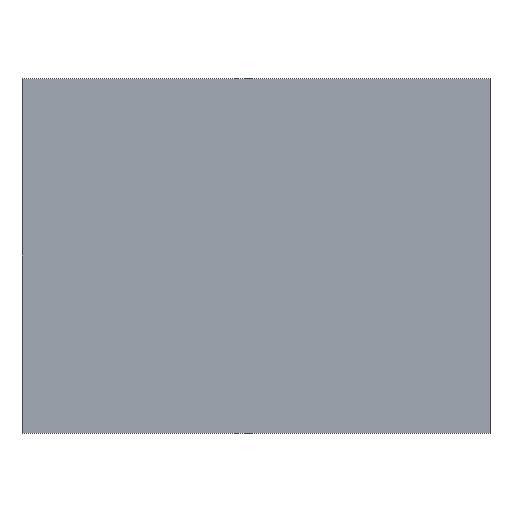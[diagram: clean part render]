
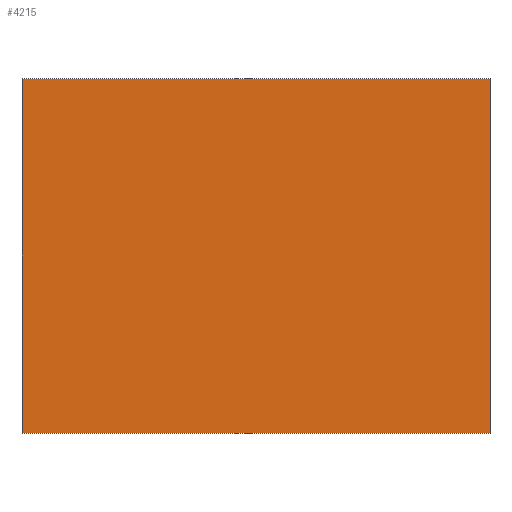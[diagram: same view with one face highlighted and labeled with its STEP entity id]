
A CAD part, front view. The second image highlights one B-rep face of the part: STEP entity #4215.
In plain terms, the highlighted planar face has unit normal (0, -1, 0).
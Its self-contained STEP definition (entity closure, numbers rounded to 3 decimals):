
#606 = ORIENTED_EDGE ( 'NONE', *, *, #3211, .F. ) ;
#2031 = VECTOR ( 'NONE', #14901, 1000. ) ;
#2086 = EDGE_LOOP ( 'NONE', ( #10309, #606, #14445, #8817 ) ) ;
#2139 = DIRECTION ( 'NONE',  ( 0., 0., -1. ) ) ;
#3211 = EDGE_CURVE ( 'NONE', #11175, #9135, #21584, .T. ) ;
#3220 = VECTOR ( 'NONE', #2139, 1000. ) ;
#3669 = EDGE_CURVE ( 'NONE', #9135, #13892, #11811, .T. ) ;
#4215 = ADVANCED_FACE ( 'NONE', ( #21738 ), #17772, .F. ) ;
#5685 = CARTESIAN_POINT ( 'NONE',  ( 61., -44.4, 23.5 ) ) ;
#5909 = CARTESIAN_POINT ( 'NONE',  ( 61., -44.4, 23.5 ) ) ;
#6081 = CARTESIAN_POINT ( 'NONE',  ( -1., -44.4, 23.5 ) ) ;
#6141 = VERTEX_POINT ( 'NONE', #5909 ) ;
#8817 = ORIENTED_EDGE ( 'NONE', *, *, #11502, .F. ) ;
#9078 = CARTESIAN_POINT ( 'NONE',  ( 61., -44.4, -23.5 ) ) ;
#9135 = VERTEX_POINT ( 'NONE', #20290 ) ;
#10309 = ORIENTED_EDGE ( 'NONE', *, *, #3669, .F. ) ;
#11175 = VERTEX_POINT ( 'NONE', #9078 ) ;
#11502 = EDGE_CURVE ( 'NONE', #13892, #6141, #20358, .T. ) ;
#11811 = LINE ( 'NONE', #6081, #2031 ) ;
#12708 = LINE ( 'NONE', #12833, #3220 ) ;
#12812 = EDGE_CURVE ( 'NONE', #6141, #11175, #12708, .T. ) ;
#12833 = CARTESIAN_POINT ( 'NONE',  ( 61., -44.4, 23.5 ) ) ;
#12846 = VECTOR ( 'NONE', #18174, 1000. ) ;
#13801 = AXIS2_PLACEMENT_3D ( 'NONE', #17695, #19626, #21297 ) ;
#13892 = VERTEX_POINT ( 'NONE', #18504 ) ;
#14445 = ORIENTED_EDGE ( 'NONE', *, *, #12812, .F. ) ;
#14901 = DIRECTION ( 'NONE',  ( 0., 0., 1. ) ) ;
#15857 = CARTESIAN_POINT ( 'NONE',  ( 61., -44.4, -23.5 ) ) ;
#17542 = DIRECTION ( 'NONE',  ( -1., 0., 0. ) ) ;
#17695 = CARTESIAN_POINT ( 'NONE',  ( 30., -44.4, 0. ) ) ;
#17772 = PLANE ( 'NONE',  #13801 ) ;
#18174 = DIRECTION ( 'NONE',  ( 1., 0., 0. ) ) ;
#18504 = CARTESIAN_POINT ( 'NONE',  ( -1., -44.4, 23.5 ) ) ;
#19626 = DIRECTION ( 'NONE',  ( 0., 1., 0. ) ) ;
#20290 = CARTESIAN_POINT ( 'NONE',  ( -1., -44.4, -23.5 ) ) ;
#20358 = LINE ( 'NONE', #5685, #12846 ) ;
#21297 = DIRECTION ( 'NONE',  ( 0., 0., -1. ) ) ;
#21584 = LINE ( 'NONE', #15857, #22712 ) ;
#21738 = FACE_OUTER_BOUND ( 'NONE', #2086, .T. ) ;
#22712 = VECTOR ( 'NONE', #17542, 1000. ) ;
